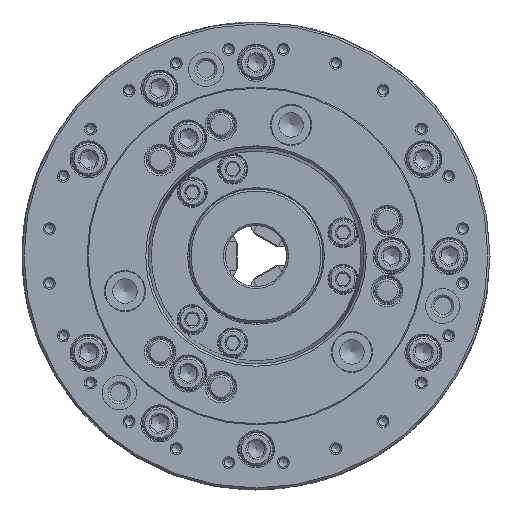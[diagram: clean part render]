
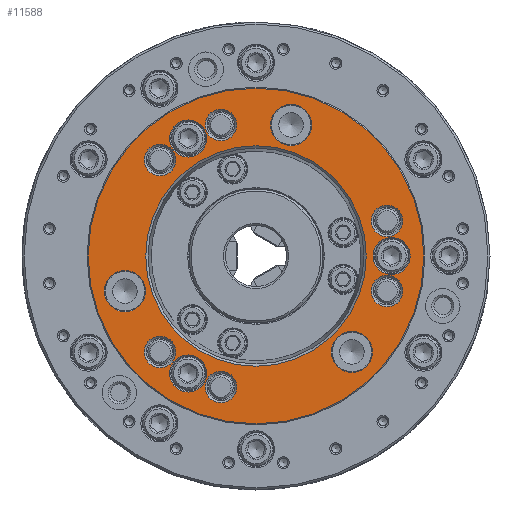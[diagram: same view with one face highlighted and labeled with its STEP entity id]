
A CAD part, left-side view. The second image highlights one B-rep face of the part: STEP entity #11588.
In plain terms, the highlighted planar face has unit normal (-1, 0, 0).
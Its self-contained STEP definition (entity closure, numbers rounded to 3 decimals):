
#1719 = CARTESIAN_POINT ( 'NONE',  ( -110., -8.484, 69.468 ) ) ;
#2226 = VERTEX_POINT ( 'NONE', #75387 ) ;
#2611 = CARTESIAN_POINT ( 'NONE',  ( -110., 47.146, 54.896 ) ) ;
#2707 = ORIENTED_EDGE ( 'NONE', *, *, #29913, .T. ) ;
#4141 = EDGE_LOOP ( 'NONE', ( #95954 ) ) ;
#4196 = CARTESIAN_POINT ( 'NONE',  ( -110., 33.337, -48.642 ) ) ;
#4923 = AXIS2_PLACEMENT_3D ( 'NONE', #93465, #35853, #68650 ) ;
#5325 = CARTESIAN_POINT ( 'NONE',  ( -110., -47.146, -47.146 ) ) ;
#5536 = ORIENTED_EDGE ( 'NONE', *, *, #56936, .F. ) ;
#6155 = AXIS2_PLACEMENT_3D ( 'NONE', #37828, #53503, #37293 ) ;
#6199 = AXIS2_PLACEMENT_3D ( 'NONE', #5325, #46772, #94696 ) ;
#6941 = FACE_BOUND ( 'NONE', #57368, .T. ) ;
#7982 = DIRECTION ( 'NONE',  ( 0., 0., -1. ) ) ;
#9182 = CARTESIAN_POINT ( 'NONE',  ( -110., 17.257, 64.403 ) ) ;
#9358 = EDGE_CURVE ( 'NONE', #30392, #30392, #98030, .T. ) ;
#9707 = EDGE_LOOP ( 'NONE', ( #58136 ) ) ;
#10141 = CARTESIAN_POINT ( 'NONE',  ( -110., 17.257, -56.653 ) ) ;
#11588 = ADVANCED_FACE ( 'NONE', ( #14485, #15027, #15576, #46798, #13968, #104917, #23592, #79562, #47304, #30592, #71475, #6941, #31129, #96831 ), #104392, .F. ) ;
#12033 = CARTESIAN_POINT ( 'NONE',  ( -110., 33.338, 66.842 ) ) ;
#12079 = CARTESIAN_POINT ( 'NONE',  ( -110., 47.146, 47.146 ) ) ;
#13968 = FACE_BOUND ( 'NONE', #29951, .T. ) ;
#14161 = VERTEX_POINT ( 'NONE', #80840 ) ;
#14210 = DIRECTION ( 'NONE',  ( -1., 0., 0. ) ) ;
#14485 = FACE_BOUND ( 'NONE', #93642, .T. ) ;
#15027 = FACE_BOUND ( 'NONE', #100607, .T. ) ;
#15225 = CARTESIAN_POINT ( 'NONE',  ( -110., -55.919, -42.081 ) ) ;
#15576 = FACE_BOUND ( 'NONE', #55105, .T. ) ;
#18669 = DIRECTION ( 'NONE',  ( -1., 0., 0. ) ) ;
#20883 = VERTEX_POINT ( 'NONE', #4196 ) ;
#20890 = CARTESIAN_POINT ( 'NONE',  ( -110., 47.146, -47.146 ) ) ;
#22248 = ORIENTED_EDGE ( 'NONE', *, *, #45599, .T. ) ;
#22610 = CARTESIAN_POINT ( 'NONE',  ( -110., 47.146, -39.396 ) ) ;
#23592 = FACE_BOUND ( 'NONE', #92977, .T. ) ;
#23845 = EDGE_CURVE ( 'NONE', #70092, #70092, #40846, .T. ) ;
#24680 = DIRECTION ( 'NONE',  ( 1., 0., 0. ) ) ;
#24803 = DIRECTION ( 'NONE',  ( -1., 0., 0. ) ) ;
#27488 = CIRCLE ( 'NONE', #4923, 82.5 ) ;
#29250 = DIRECTION ( 'NONE',  ( 0., 0., 1. ) ) ;
#29255 = EDGE_CURVE ( 'NONE', #14161, #14161, #76627, .T. ) ;
#29913 = EDGE_CURVE ( 'NONE', #39395, #39395, #87028, .T. ) ;
#29951 = EDGE_LOOP ( 'NONE', ( #98985 ) ) ;
#30392 = VERTEX_POINT ( 'NONE', #31445 ) ;
#30592 = FACE_BOUND ( 'NONE', #47057, .T. ) ;
#31129 = FACE_OUTER_BOUND ( 'NONE', #31788, .T. ) ;
#31359 = AXIS2_PLACEMENT_3D ( 'NONE', #41378, #24680, #40842 ) ;
#31445 = CARTESIAN_POINT ( 'NONE',  ( -110., 17.257, 72.153 ) ) ;
#31788 = EDGE_LOOP ( 'NONE', ( #22248 ) ) ;
#31945 = CIRCLE ( 'NONE', #35416, 54.189 ) ;
#32758 = CARTESIAN_POINT ( 'NONE',  ( -110., -64.403, 25.007 ) ) ;
#35416 = AXIS2_PLACEMENT_3D ( 'NONE', #83380, #75288, #69330 ) ;
#35853 = DIRECTION ( 'NONE',  ( -1., 0., 0. ) ) ;
#36314 = ORIENTED_EDGE ( 'NONE', *, *, #23845, .F. ) ;
#36877 = EDGE_CURVE ( 'NONE', #82408, #82408, #60555, .T. ) ;
#37279 = CIRCLE ( 'NONE', #99197, 7.75 ) ;
#37293 = DIRECTION ( 'NONE',  ( 0., 0., 1. ) ) ;
#37828 = CARTESIAN_POINT ( 'NONE',  ( -110., -64.403, -17.257 ) ) ;
#37886 = ORIENTED_EDGE ( 'NONE', *, *, #29255, .F. ) ;
#38668 = EDGE_LOOP ( 'NONE', ( #40651 ) ) ;
#38794 = DIRECTION ( 'NONE',  ( 0., 0., 1. ) ) ;
#39395 = VERTEX_POINT ( 'NONE', #15225 ) ;
#39780 = EDGE_CURVE ( 'NONE', #2226, #2226, #31945, .T. ) ;
#40651 = ORIENTED_EDGE ( 'NONE', *, *, #96823, .F. ) ;
#40832 = VERTEX_POINT ( 'NONE', #32758 ) ;
#40842 = DIRECTION ( 'NONE',  ( 0., 0., -1. ) ) ;
#40846 = CIRCLE ( 'NONE', #102772, 9.1 ) ;
#41378 = CARTESIAN_POINT ( 'NONE',  ( -110., 64.403, -17.257 ) ) ;
#42024 = DIRECTION ( 'NONE',  ( 0., 0., 1. ) ) ;
#43542 = DIRECTION ( 'NONE',  ( 0., 0., 1. ) ) ;
#44041 = EDGE_LOOP ( 'NONE', ( #37886 ) ) ;
#44469 = ORIENTED_EDGE ( 'NONE', *, *, #36877, .T. ) ;
#45599 = EDGE_CURVE ( 'NONE', #69953, #69953, #27488, .T. ) ;
#46772 = DIRECTION ( 'NONE',  ( 1., 0., 0. ) ) ;
#46798 = FACE_BOUND ( 'NONE', #38668, .T. ) ;
#47022 = EDGE_LOOP ( 'NONE', ( #77464 ) ) ;
#47057 = EDGE_LOOP ( 'NONE', ( #47775 ) ) ;
#47304 = FACE_BOUND ( 'NONE', #4141, .T. ) ;
#47775 = ORIENTED_EDGE ( 'NONE', *, *, #86672, .F. ) ;
#49618 = CIRCLE ( 'NONE', #73670, 9.1 ) ;
#50464 = DIRECTION ( 'NONE',  ( 0., 0.866, 0.5 ) ) ;
#53503 = DIRECTION ( 'NONE',  ( -1., 0., 0. ) ) ;
#53731 = DIRECTION ( 'NONE',  ( -1., 0., 0. ) ) ;
#55063 = AXIS2_PLACEMENT_3D ( 'NONE', #9182, #24803, #42024 ) ;
#55105 = EDGE_LOOP ( 'NONE', ( #5536 ) ) ;
#55416 = AXIS2_PLACEMENT_3D ( 'NONE', #58524, #56430, #50464 ) ;
#55912 = DIRECTION ( 'NONE',  ( 1., 0., 0. ) ) ;
#56051 = CARTESIAN_POINT ( 'NONE',  ( -110., 33.338, 57.742 ) ) ;
#56430 = DIRECTION ( 'NONE',  ( 1., 0., 0. ) ) ;
#56936 = EDGE_CURVE ( 'NONE', #96378, #96378, #77137, .T. ) ;
#57368 = EDGE_LOOP ( 'NONE', ( #103871 ) ) ;
#58136 = ORIENTED_EDGE ( 'NONE', *, *, #100098, .F. ) ;
#58229 = AXIS2_PLACEMENT_3D ( 'NONE', #20890, #53731, #78429 ) ;
#58524 = CARTESIAN_POINT ( 'NONE',  ( -110., -17.257, 64.403 ) ) ;
#58989 = DIRECTION ( 'NONE',  ( -1., 0., 0. ) ) ;
#60154 = ORIENTED_EDGE ( 'NONE', *, *, #69061, .T. ) ;
#60555 = CIRCLE ( 'NONE', #55416, 10.13 ) ;
#61796 = CARTESIAN_POINT ( 'NONE',  ( -110., 64.403, -27.387 ) ) ;
#65674 = EDGE_LOOP ( 'NONE', ( #60154 ) ) ;
#66754 = CARTESIAN_POINT ( 'NONE',  ( -110., -64.403, -9.507 ) ) ;
#67074 = CARTESIAN_POINT ( 'NONE',  ( -110., -66.675, 0. ) ) ;
#68099 = DIRECTION ( 'NONE',  ( 0., 0., 1. ) ) ;
#68650 = DIRECTION ( 'NONE',  ( 0., 0., 1. ) ) ;
#69061 = EDGE_CURVE ( 'NONE', #100648, #100648, #98521, .T. ) ;
#69292 = CARTESIAN_POINT ( 'NONE',  ( -110., 17.257, -64.403 ) ) ;
#69330 = DIRECTION ( 'NONE',  ( 0., 0., 1. ) ) ;
#69953 = VERTEX_POINT ( 'NONE', #93706 ) ;
#70092 = VERTEX_POINT ( 'NONE', #12033 ) ;
#70127 = DIRECTION ( 'NONE',  ( -1., 0., 0. ) ) ;
#71475 = FACE_BOUND ( 'NONE', #44041, .T. ) ;
#71976 = CIRCLE ( 'NONE', #106491, 7.75 ) ;
#73139 = CIRCLE ( 'NONE', #88734, 7.75 ) ;
#73670 = AXIS2_PLACEMENT_3D ( 'NONE', #84301, #58989, #68099 ) ;
#74796 = VERTEX_POINT ( 'NONE', #66754 ) ;
#75288 = DIRECTION ( 'NONE',  ( -1., 0., 0. ) ) ;
#75387 = CARTESIAN_POINT ( 'NONE',  ( -110., 0., 54.189 ) ) ;
#76627 = CIRCLE ( 'NONE', #88655, 9.1 ) ;
#77137 = CIRCLE ( 'NONE', #58229, 7.75 ) ;
#77464 = ORIENTED_EDGE ( 'NONE', *, *, #106406, .F. ) ;
#78212 = CARTESIAN_POINT ( 'NONE',  ( -110., -64.403, 17.257 ) ) ;
#78429 = DIRECTION ( 'NONE',  ( 0., 0., 1. ) ) ;
#79562 = FACE_BOUND ( 'NONE', #65674, .T. ) ;
#80091 = CARTESIAN_POINT ( 'NONE',  ( -110., 82.5, 0. ) ) ;
#80840 = CARTESIAN_POINT ( 'NONE',  ( -110., -66.675, 9.1 ) ) ;
#81356 = AXIS2_PLACEMENT_3D ( 'NONE', #80091, #55912, #7982 ) ;
#81397 = EDGE_CURVE ( 'NONE', #74796, #74796, #104151, .T. ) ;
#82408 = VERTEX_POINT ( 'NONE', #1719 ) ;
#82790 = VERTEX_POINT ( 'NONE', #2611 ) ;
#83380 = CARTESIAN_POINT ( 'NONE',  ( -110., 0., 0. ) ) ;
#84301 = CARTESIAN_POINT ( 'NONE',  ( -110., 33.337, -57.742 ) ) ;
#84437 = DIRECTION ( 'NONE',  ( -1., 0., 0. ) ) ;
#84935 = VERTEX_POINT ( 'NONE', #10141 ) ;
#86672 = EDGE_CURVE ( 'NONE', #40832, #40832, #37279, .T. ) ;
#87028 = CIRCLE ( 'NONE', #6199, 10.13 ) ;
#88655 = AXIS2_PLACEMENT_3D ( 'NONE', #67074, #18669, #101065 ) ;
#88734 = AXIS2_PLACEMENT_3D ( 'NONE', #12079, #14210, #103070 ) ;
#89925 = DIRECTION ( 'NONE',  ( -1., 0., 0. ) ) ;
#92977 = EDGE_LOOP ( 'NONE', ( #36314 ) ) ;
#93465 = CARTESIAN_POINT ( 'NONE',  ( -110., 0., 0. ) ) ;
#93642 = EDGE_LOOP ( 'NONE', ( #44469 ) ) ;
#93706 = CARTESIAN_POINT ( 'NONE',  ( -110., 0., 82.5 ) ) ;
#94696 = DIRECTION ( 'NONE',  ( 0., -0.866, 0.5 ) ) ;
#95954 = ORIENTED_EDGE ( 'NONE', *, *, #81397, .F. ) ;
#96378 = VERTEX_POINT ( 'NONE', #22610 ) ;
#96823 = EDGE_CURVE ( 'NONE', #84935, #84935, #71976, .T. ) ;
#96831 = FACE_BOUND ( 'NONE', #9707, .T. ) ;
#98030 = CIRCLE ( 'NONE', #55063, 7.75 ) ;
#98521 = CIRCLE ( 'NONE', #31359, 10.13 ) ;
#98985 = ORIENTED_EDGE ( 'NONE', *, *, #9358, .F. ) ;
#99197 = AXIS2_PLACEMENT_3D ( 'NONE', #78212, #70127, #29250 ) ;
#100098 = EDGE_CURVE ( 'NONE', #82790, #82790, #73139, .T. ) ;
#100607 = EDGE_LOOP ( 'NONE', ( #2707 ) ) ;
#100648 = VERTEX_POINT ( 'NONE', #61796 ) ;
#101065 = DIRECTION ( 'NONE',  ( 0., 0., 1. ) ) ;
#102772 = AXIS2_PLACEMENT_3D ( 'NONE', #56051, #89925, #38794 ) ;
#103070 = DIRECTION ( 'NONE',  ( 0., 0., 1. ) ) ;
#103871 = ORIENTED_EDGE ( 'NONE', *, *, #39780, .F. ) ;
#104151 = CIRCLE ( 'NONE', #6155, 7.75 ) ;
#104392 = PLANE ( 'NONE',  #81356 ) ;
#104917 = FACE_BOUND ( 'NONE', #47022, .T. ) ;
#106406 = EDGE_CURVE ( 'NONE', #20883, #20883, #49618, .T. ) ;
#106491 = AXIS2_PLACEMENT_3D ( 'NONE', #69292, #84437, #43542 ) ;
